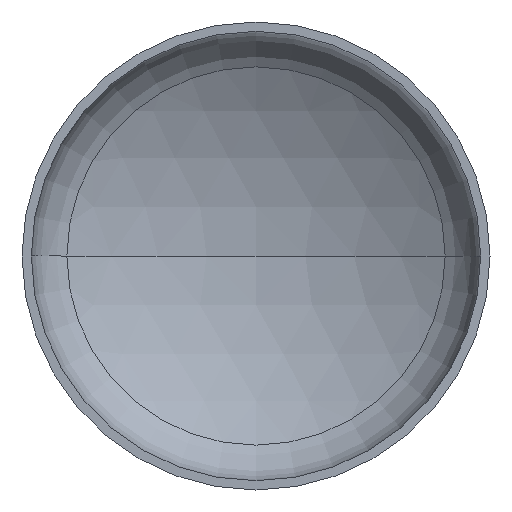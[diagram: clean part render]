
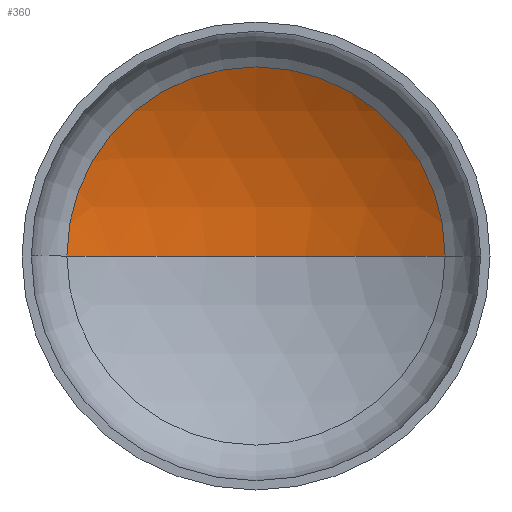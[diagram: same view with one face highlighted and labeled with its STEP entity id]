
A CAD part, front view. The second image highlights one B-rep face of the part: STEP entity #360.
In plain terms, the highlighted spherical face has radius 480 mm.
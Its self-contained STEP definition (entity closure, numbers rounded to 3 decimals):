
#4 = AXIS2_PLACEMENT_3D ( 'NONE', #170, #227, #194 ) ;
#6 = AXIS2_PLACEMENT_3D ( 'NONE', #145, #146, #203 ) ;
#23 = EDGE_LOOP ( 'NONE', ( #110, #52, #92 ) ) ;
#35 = VERTEX_POINT ( 'NONE', #226 ) ;
#38 = AXIS2_PLACEMENT_3D ( 'NONE', #408, #271, #371 ) ;
#52 = ORIENTED_EDGE ( 'NONE', *, *, #377, .T. ) ;
#89 = CARTESIAN_POINT ( 'NONE',  ( 0., -294.855, 0. ) ) ;
#92 = ORIENTED_EDGE ( 'NONE', *, *, #378, .T. ) ;
#96 = VERTEX_POINT ( 'NONE', #200 ) ;
#105 = VERTEX_POINT ( 'NONE', #302 ) ;
#110 = ORIENTED_EDGE ( 'NONE', *, *, #361, .F. ) ;
#145 = CARTESIAN_POINT ( 'NONE',  ( 0., -294.855, 0. ) ) ;
#146 = DIRECTION ( 'NONE',  ( 0., 0., 1. ) ) ;
#147 = CIRCLE ( 'NONE', #398, 480. ) ;
#170 = CARTESIAN_POINT ( 'NONE',  ( 0., -294.855, 0. ) ) ;
#194 = DIRECTION ( 'NONE',  ( -1., 0., 0. ) ) ;
#200 = CARTESIAN_POINT ( 'NONE',  ( 242.474, 119.399, 0. ) ) ;
#203 = DIRECTION ( 'NONE',  ( 1., 0., 0. ) ) ;
#217 = CIRCLE ( 'NONE', #38, 242.474 ) ;
#226 = CARTESIAN_POINT ( 'NONE',  ( -242.474, 119.399, 0. ) ) ;
#227 = DIRECTION ( 'NONE',  ( 0., 0., -1. ) ) ;
#271 = DIRECTION ( 'NONE',  ( 0., -1., 0. ) ) ;
#275 = CIRCLE ( 'NONE', #6, 480. ) ;
#293 = DIRECTION ( 'NONE',  ( 0., 0., -1. ) ) ;
#295 = DIRECTION ( 'NONE',  ( -1., 0., 0. ) ) ;
#302 = CARTESIAN_POINT ( 'NONE',  ( 0., 185.145, 0. ) ) ;
#347 = SPHERICAL_SURFACE ( 'NONE', #4, 480. ) ;
#360 = ADVANCED_FACE ( 'NONE', ( #402 ), #347, .F. ) ;
#361 = EDGE_CURVE ( 'NONE', #105, #35, #275, .T. ) ;
#371 = DIRECTION ( 'NONE',  ( 1., 0., 0. ) ) ;
#377 = EDGE_CURVE ( 'NONE', #105, #96, #147, .T. ) ;
#378 = EDGE_CURVE ( 'NONE', #96, #35, #217, .T. ) ;
#398 = AXIS2_PLACEMENT_3D ( 'NONE', #89, #293, #295 ) ;
#402 = FACE_OUTER_BOUND ( 'NONE', #23, .T. ) ;
#408 = CARTESIAN_POINT ( 'NONE',  ( 0., 119.399, 0. ) ) ;
